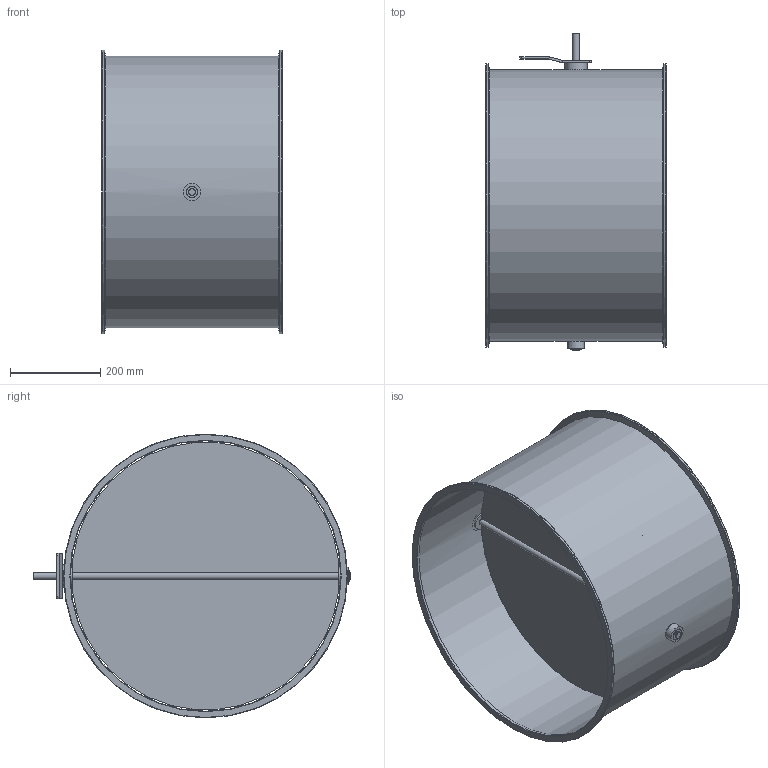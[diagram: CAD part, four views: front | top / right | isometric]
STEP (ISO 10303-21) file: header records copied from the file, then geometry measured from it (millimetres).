
FILE_DESCRIPTION(/* description */ (''),/* implementation_level */ '2;1');
FILE_NAME(/* name */ 'EA112-80B__600_L400_Belimo_Typ_SM.stp',/* time_stamp */ '2017-12-07T11:03:05+01:00',/* author */ (''),/* organization */ (''),/* preprocessor_version */ 'ST-DEVELOPER v11',/* originating_system */ 'SIEMENS UGS NX 6.0',/* authorisation */ '');
FILE_SCHEMA (('CONFIG_CONTROL_DESIGN'));
Length unit declared in the file: millimetre
Products named in the file (1): gars5544kxbe
Bounding box: 400 x 704 x 630 mm (x, y, z)
Volume: 1715915.3 mm3; surface area: 2255438.1 mm2
Topology: 8 solids, 8 shells, 79 faces, 167 edges, 106 vertices
Faces by surface type: plane 36, cylinder 35, torus 6, cone 2
Full cylindrical faces by diameter (mm): 6.1 x7, 15 x3, 25 x3, 25.85 x2, 26 x2, 38 x3, 49 x1, 600 x1, 602 x1, 630 x2
Entity records: 2062 total; most frequent: CARTESIAN_POINT 368, DIRECTION 352, ORIENTED_EDGE 248, AXIS2_PLACEMENT_3D 152, EDGE_LOOP 144, EDGE_CURVE 124, FACE_BOUND 114, VERTEX_POINT 96
